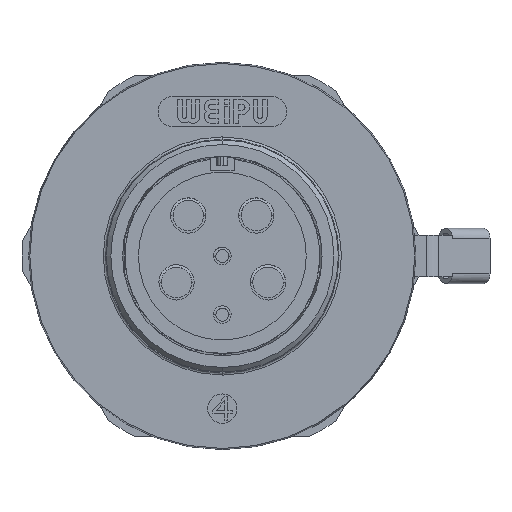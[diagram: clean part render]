
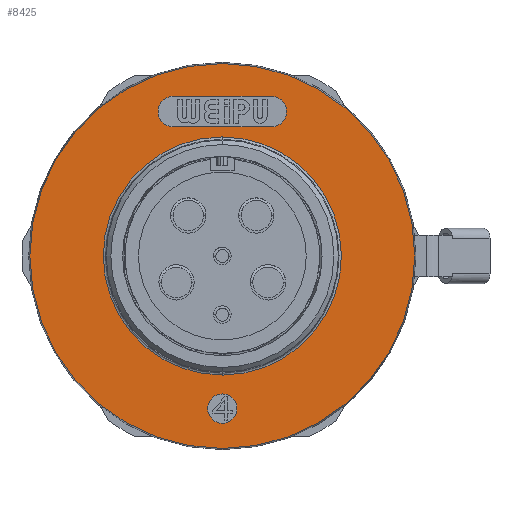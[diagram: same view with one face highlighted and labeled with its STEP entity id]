
A CAD part, front view. The second image highlights one B-rep face of the part: STEP entity #8425.
In plain terms, the highlighted planar face has unit normal (0, -1, 0).
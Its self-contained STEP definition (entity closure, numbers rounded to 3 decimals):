
#165=CARTESIAN_POINT('',(0.,0.,0.));
#166=DIRECTION('',(0.,1.,0.));
#167=DIRECTION('',(0.,0.,-1.));
#168=AXIS2_PLACEMENT_3D('',#165,#166,#167);
#170=CARTESIAN_POINT('',(0.,0.,0.));
#171=DIRECTION('',(0.,1.,0.));
#172=DIRECTION('',(0.,0.,1.));
#173=AXIS2_PLACEMENT_3D('',#170,#171,#172);
#175=CARTESIAN_POINT('',(0.,0.,0.));
#176=DIRECTION('',(0.,-1.,0.));
#177=DIRECTION('',(0.008,0.,-1.));
#178=AXIS2_PLACEMENT_3D('',#175,#176,#177);
#180=CARTESIAN_POINT('',(0.,0.,0.));
#181=DIRECTION('',(0.,-1.,0.));
#182=DIRECTION('',(-0.008,0.,1.));
#183=AXIS2_PLACEMENT_3D('',#180,#181,#182);
#185=CARTESIAN_POINT('',(-4.17,0.,12.305));
#186=DIRECTION('',(0.,-1.,0.));
#187=DIRECTION('',(0.,0.,1.));
#188=AXIS2_PLACEMENT_3D('',#185,#186,#187);
#190=CARTESIAN_POINT('',(-4.17,0.,12.305));
#191=DIRECTION('',(0.,-1.,0.));
#192=DIRECTION('',(-1.,0.,0.));
#193=AXIS2_PLACEMENT_3D('',#190,#191,#192);
#195=CARTESIAN_POINT('',(4.17,0.,12.305));
#196=DIRECTION('',(0.,-1.,0.));
#197=DIRECTION('',(0.,0.,-1.));
#198=AXIS2_PLACEMENT_3D('',#195,#196,#197);
#200=CARTESIAN_POINT('',(4.17,0.,12.305));
#201=DIRECTION('',(0.,-1.,0.));
#202=DIRECTION('',(1.,0.,0.));
#203=AXIS2_PLACEMENT_3D('',#200,#201,#202);
#205=CARTESIAN_POINT('',(0.,0.,-13.));
#206=DIRECTION('',(0.,-1.,0.));
#207=DIRECTION('',(1.,0.,0.));
#208=AXIS2_PLACEMENT_3D('',#205,#206,#207);
#210=CARTESIAN_POINT('',(0.,0.,-13.));
#211=DIRECTION('',(0.,-1.,0.));
#212=DIRECTION('',(-1.,0.,0.));
#213=AXIS2_PLACEMENT_3D('',#210,#211,#212);
#5038=CARTESIAN_POINT('',(0.,0.,0.));
#5039=DIRECTION('',(0.,1.,0.));
#5040=DIRECTION('',(0.008,0.,-1.));
#5041=AXIS2_PLACEMENT_3D('',#5038,#5039,#5040);
#5076=CARTESIAN_POINT('',(0.,0.,0.));
#5077=DIRECTION('',(0.,1.,0.));
#5078=DIRECTION('',(-0.008,0.,1.));
#5079=AXIS2_PLACEMENT_3D('',#5076,#5077,#5078);
#6213=DIRECTION('',(-1.,0.,0.));
#6214=VECTOR('',#6213,8.34);
#6215=CARTESIAN_POINT('',(4.17,0.,11.));
#6216=LINE('',#6215,#6214);
#6229=DIRECTION('',(1.,0.,0.));
#6230=VECTOR('',#6229,8.34);
#6231=CARTESIAN_POINT('',(-4.17,0.,13.61));
#6232=LINE('',#6231,#6230);
#7078=CARTESIAN_POINT('',(0.,0.,-16.4));
#7079=VERTEX_POINT('',#7078);
#7080=CARTESIAN_POINT('',(0.,0.,16.4));
#7081=VERTEX_POINT('',#7080);
#7082=CARTESIAN_POINT('',(0.083,0.,-10.144));
#7083=CARTESIAN_POINT('',(0.,0.,10.144));
#7084=VERTEX_POINT('',#7082);
#7085=VERTEX_POINT('',#7083);
#7086=CARTESIAN_POINT('',(-0.083,0.,10.144));
#7087=CARTESIAN_POINT('',(0.,0.,-10.144));
#7088=VERTEX_POINT('',#7086);
#7089=VERTEX_POINT('',#7087);
#7090=CARTESIAN_POINT('',(-4.17,0.,13.61));
#7091=CARTESIAN_POINT('',(-5.475,0.,12.305));
#7092=VERTEX_POINT('',#7090);
#7093=VERTEX_POINT('',#7091);
#7094=CARTESIAN_POINT('',(-4.17,0.,11.));
#7095=VERTEX_POINT('',#7094);
#7096=CARTESIAN_POINT('',(4.17,0.,11.));
#7097=CARTESIAN_POINT('',(5.475,0.,12.305));
#7098=VERTEX_POINT('',#7096);
#7099=VERTEX_POINT('',#7097);
#7100=CARTESIAN_POINT('',(4.17,0.,13.61));
#7101=VERTEX_POINT('',#7100);
#7102=CARTESIAN_POINT('',(1.25,0.,-13.));
#7103=CARTESIAN_POINT('',(-1.25,0.,-13.));
#7104=VERTEX_POINT('',#7102);
#7105=VERTEX_POINT('',#7103);
#8386=CARTESIAN_POINT('',(0.,0.,0.));
#8387=DIRECTION('',(0.,1.,0.));
#8388=DIRECTION('',(0.,0.,-1.));
#8389=AXIS2_PLACEMENT_3D('',#8386,#8387,#8388);
#8390=PLANE('',#8389);
#8392=ORIENTED_EDGE('',*,*,#8391,.T.);
#8394=ORIENTED_EDGE('',*,*,#8393,.T.);
#8395=EDGE_LOOP('',(#8392,#8394));
#8396=FACE_OUTER_BOUND('',#8395,.F.);
#8398=ORIENTED_EDGE('',*,*,#8397,.F.);
#8400=ORIENTED_EDGE('',*,*,#8399,.T.);
#8402=ORIENTED_EDGE('',*,*,#8401,.F.);
#8404=ORIENTED_EDGE('',*,*,#8403,.T.);
#8405=EDGE_LOOP('',(#8398,#8400,#8402,#8404));
#8406=FACE_BOUND('',#8405,.F.);
#8407=ORIENTED_EDGE('',*,*,#8375,.T.);
#8408=ORIENTED_EDGE('',*,*,#8373,.T.);
#8410=ORIENTED_EDGE('',*,*,#8409,.F.);
#8412=ORIENTED_EDGE('',*,*,#8411,.T.);
#8414=ORIENTED_EDGE('',*,*,#8413,.T.);
#8416=ORIENTED_EDGE('',*,*,#8415,.F.);
#8417=EDGE_LOOP('',(#8407,#8408,#8410,#8412,#8414,#8416));
#8418=FACE_BOUND('',#8417,.F.);
#8420=ORIENTED_EDGE('',*,*,#8419,.T.);
#8422=ORIENTED_EDGE('',*,*,#8421,.T.);
#8423=EDGE_LOOP('',(#8420,#8422));
#8424=FACE_BOUND('',#8423,.F.);
#8425=ADVANCED_FACE('',(#8396,#8406,#8418,#8424),#8390,.F.);
#169=CIRCLE('',#168,16.4);
#174=CIRCLE('',#173,16.4);
#179=CIRCLE('',#178,10.144);
#184=CIRCLE('',#183,10.144);
#189=CIRCLE('',#188,1.305);
#194=CIRCLE('',#193,1.305);
#199=CIRCLE('',#198,1.305);
#204=CIRCLE('',#203,1.305);
#209=CIRCLE('',#208,1.25);
#214=CIRCLE('',#213,1.25);
#5042=CIRCLE('',#5041,10.144);
#5080=CIRCLE('',#5079,10.144);
#8373=EDGE_CURVE('',#7093,#7095,#194,.T.);
#8375=EDGE_CURVE('',#7092,#7093,#189,.T.);
#8391=EDGE_CURVE('',#7079,#7081,#169,.T.);
#8393=EDGE_CURVE('',#7081,#7079,#174,.T.);
#8397=EDGE_CURVE('',#7084,#7089,#5042,.T.);
#8399=EDGE_CURVE('',#7084,#7085,#179,.T.);
#8401=EDGE_CURVE('',#7088,#7085,#5080,.T.);
#8403=EDGE_CURVE('',#7088,#7089,#184,.T.);
#8409=EDGE_CURVE('',#7098,#7095,#6216,.T.);
#8411=EDGE_CURVE('',#7098,#7099,#199,.T.);
#8413=EDGE_CURVE('',#7099,#7101,#204,.T.);
#8415=EDGE_CURVE('',#7092,#7101,#6232,.T.);
#8419=EDGE_CURVE('',#7104,#7105,#209,.T.);
#8421=EDGE_CURVE('',#7105,#7104,#214,.T.);
